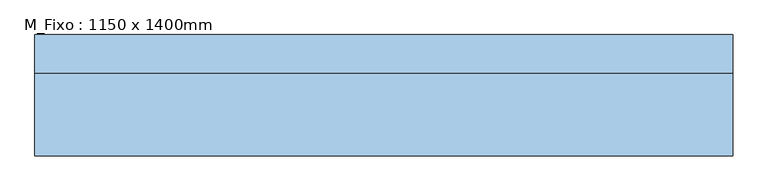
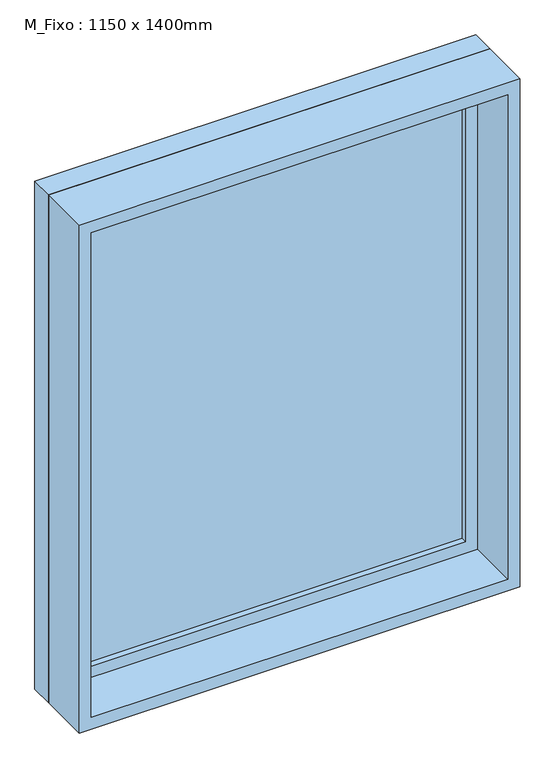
"""IFC4 building model written with IfcOpenShell, lengths in millimetres: window geometry, M_Fixo : 1150 x 1400mm."""

from ifc_helpers import new_model, si_unit, frame, origin, place, context, project, spatial, polyline, outline, extrude, source, transform, mapped, element, save


def m_fixo_1150_x_1400mm_b22465d1(model_context):
    return source(origin(), model_context, "Body", "SweptSolid", [
        extrude(outline(polyline([(-512.0, 78.0), (512.0, 78.0), (512.0, 66.0), (-512.0, 66.0), (-512.0, 78.0)])), frame((0.0, 0.0, 1063.0), z_axis=(0.0, 0.0, 1.0), x_axis=(1.0, 0.0, 0.0)), (0.0, 0.0, 1.0), 1274.0),
        extrude(outline(polyline([(2381.0, -556.0), (1019.0, -556.0), (1019.0, 556.0), (2381.0, 556.0), (2381.0, -556.0)]), holes=[polyline([(2337.0, -512.0), (2337.0, 512.0), (1063.0, 512.0), (1063.0, -512.0), (2337.0, -512.0)])]), frame((0.0, 50.0, 0.0), z_axis=(0.0, 1.0, 0.0), x_axis=(0.0, 0.0, 1.0)), (0.0, 0.0, 1.0), 44.0),
        extrude(outline(polyline([(2400.0, -575.0), (1000.0, -575.0), (1000.0, 575.0), (2400.0, 575.0), (2400.0, -575.0)]), holes=[polyline([(2381.0, -556.0), (2381.0, 556.0), (1019.0, 556.0), (1019.0, -556.0), (2381.0, -556.0)])]), frame((0.0, 50.0, 0.0), z_axis=(0.0, 1.0, 0.0), x_axis=(0.0, 0.0, 1.0)), (0.0, 0.0, 1.0), 63.0),
        extrude(outline(polyline([(2400.0, -575.0), (1000.0, -575.0), (1000.0, 575.0), (2400.0, 575.0), (2400.0, -575.0)]), holes=[polyline([(2368.0, -543.0), (2368.0, 543.0), (1032.0, 543.0), (1032.0, -543.0), (2368.0, -543.0)])]), frame((0.0, -87.0, 0.0), z_axis=(0.0, 1.0, 0.0), x_axis=(0.0, 0.0, 1.0)), (0.0, 0.0, 1.0), 137.0),
    ])


if __name__ == "__main__":
    model = new_model("IFC4")
    model_context = context("Model", 3, world=origin())
    ifc_project = project(units=[si_unit("LENGTHUNIT", "METRE", prefix="MILLI")], contexts=[model_context])
    site = spatial("IfcSite", under=ifc_project)
    building = spatial("IfcBuilding", under=site)
    placement = place(None, origin())
    m_fixo_1150_x_1400mm_shape = m_fixo_1150_x_1400mm_b22465d1(model_context)
    element("IfcWindow", 1, ObjectType="M_Fixo : 1150 x 1400mm", at=placement, inside=building, context=model_context, shape_type="MappedRepresentation", body=[
        mapped(m_fixo_1150_x_1400mm_shape, transform((0.0, 0.0, 0.0), x_axis=(1.0, 0.0, 0.0), y_axis=(0.0, 1.0, 0.0), z_axis=(0.0, 0.0, 1.0))),
    ])
    save(model, "model.ifc")
